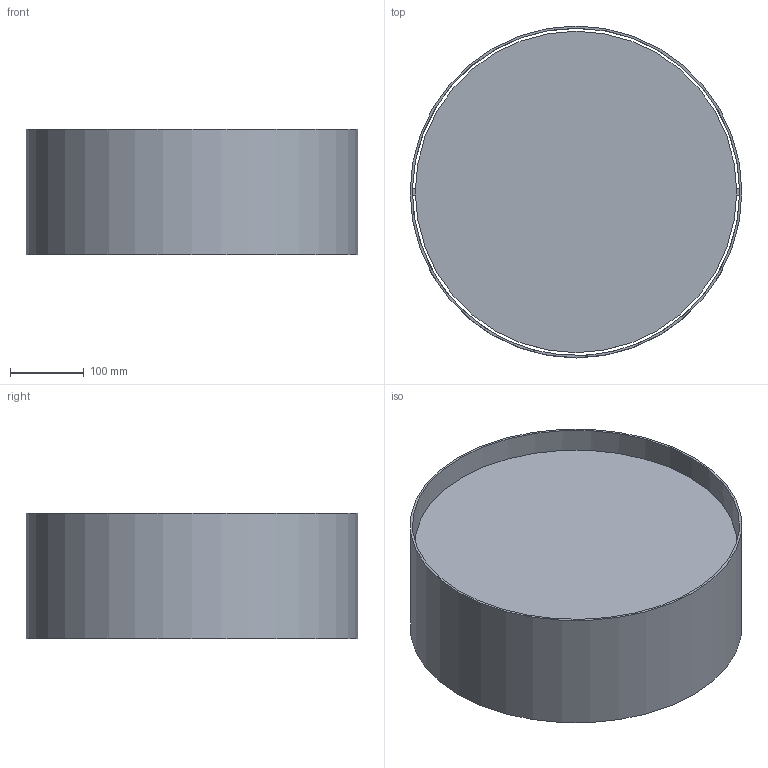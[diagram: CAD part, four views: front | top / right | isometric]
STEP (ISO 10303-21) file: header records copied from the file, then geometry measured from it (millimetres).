
FILE_DESCRIPTION(/* description */ (''),/* implementation_level */ '2;1');
FILE_NAME(/* name */ 'D:\TK Lighting\2021\_Bilbao\3376.stp',/* time_stamp */ '2021-03-03T14:53:15+01:00',/* author */ ('Admin'),/* organization */ (''),/* preprocessor_version */ 'ST-DEVELOPER v16.5',/* originating_system */ 'Autodesk Inventor 2017',/* authorisation */ '');
FILE_SCHEMA (('AUTOMOTIVE_DESIGN { 1 0 10303 214 3 1 1 }'));
Length unit declared in the file: millimetre
Products named in the file (1): 3376
Bounding box: 450 x 450 x 170 mm (x, y, z)
Volume: 1484786.2 mm3; surface area: 804652.8 mm2
Topology: 2 solids, 2 shells, 13 faces, 30 edges, 20 vertices
Faces by surface type: plane 7, cylinder 6
Full cylindrical faces by diameter (mm): 3 x3, 436 x1, 444 x1, 450 x1
Entity records: 414 total; most frequent: DIRECTION 66, CARTESIAN_POINT 56, ORIENTED_EDGE 46, AXIS2_PLACEMENT_3D 29, EDGE_LOOP 28, EDGE_CURVE 23, VERTEX_POINT 19, FACE_BOUND 15
